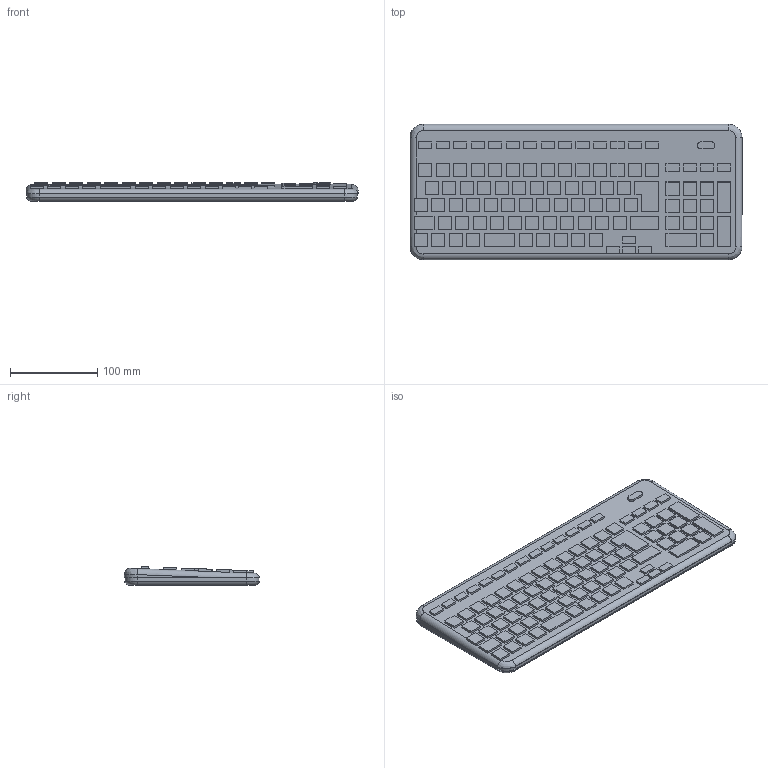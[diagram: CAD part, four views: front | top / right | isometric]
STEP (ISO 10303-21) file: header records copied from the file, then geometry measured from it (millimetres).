
FILE_DESCRIPTION(/* description */ ('Logicool'),/* implementation_level */ '2;1');
FILE_NAME(/* name */ 'C:\Users\Fujimoto-s\OneDrive\Inventor\WorkSpace\\X2\305D306E4ED6\X0\\ホームページ用\\X2\30C030A630F330ED30FC30C97D206750\X0\\ＰＣ関係\\X2\30A230C330D730ED30FC30C97528\X0\\キーボード\キーボード.stp',/* time_stamp */ '2024-08-13T17:08:32+09:00',/* author */ ('Fujimoto-s'),/* organization */ (''),/* preprocessor_version */ 'ST-DEVELOPER v15.2',/* originating_system */ 'Autodesk Inventor 2014',/* authorisation */ '');
FILE_SCHEMA (('AUTOMOTIVE_DESIGN { 1 0 10303 214 3 1 1 }'));
Length unit declared in the file: millimetre
Products named in the file (1): キーボード
Bounding box: 380 x 154.78 x 21.72 mm (x, y, z)
Volume: 1027533.2 mm3; surface area: 145276.8 mm2
Topology: 1 solids, 1 shells, 530 faces, 1286 edges, 856 vertices
Faces by surface type: plane 506, cylinder 16, bspline 4, torus 4
Entity records: 15427 total; most frequent: CARTESIAN_POINT 2865, ORIENTED_EDGE 2572, DIRECTION 2390, EDGE_CURVE 1286, LINE 1232, VECTOR 1232, VERTEX_POINT 856, EDGE_LOOP 628
